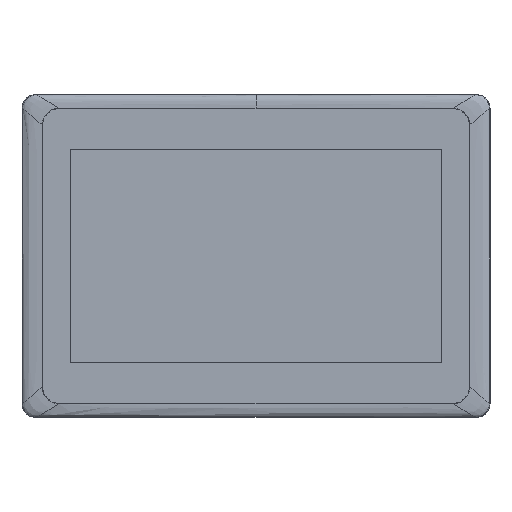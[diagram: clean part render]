
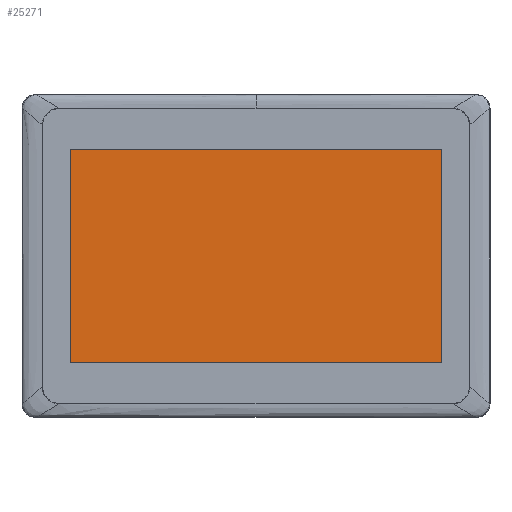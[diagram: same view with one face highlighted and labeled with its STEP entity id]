
A CAD part, top view. The second image highlights one B-rep face of the part: STEP entity #25271.
In plain terms, the highlighted planar face has unit normal (0, 0, 1).
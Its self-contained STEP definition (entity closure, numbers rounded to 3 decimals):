
#25092=DIRECTION('',(0.,-1.,0.));
#25093=VECTOR('',#25092,127.6);
#25094=CARTESIAN_POINT('',(-111.25,63.8,-0.3));
#25095=LINE('',#25094,#25093);
#25096=DIRECTION('',(-1.,0.,0.));
#25097=VECTOR('',#25096,222.5);
#25098=CARTESIAN_POINT('',(111.25,63.8,-0.3));
#25099=LINE('',#25098,#25097);
#25100=DIRECTION('',(0.,1.,0.));
#25101=VECTOR('',#25100,127.6);
#25102=CARTESIAN_POINT('',(111.25,-63.8,-0.3));
#25103=LINE('',#25102,#25101);
#25104=DIRECTION('',(1.,0.,0.));
#25105=VECTOR('',#25104,222.5);
#25106=CARTESIAN_POINT('',(-111.25,-63.8,-0.3));
#25107=LINE('',#25106,#25105);
#25119=CARTESIAN_POINT('',(-111.25,63.8,-0.3));
#25120=CARTESIAN_POINT('',(-111.25,-63.8,-0.3));
#25121=VERTEX_POINT('',#25119);
#25122=VERTEX_POINT('',#25120);
#25123=CARTESIAN_POINT('',(111.25,-63.8,-0.3));
#25124=VERTEX_POINT('',#25123);
#25125=CARTESIAN_POINT('',(111.25,63.8,-0.3));
#25126=VERTEX_POINT('',#25125);
#25260=CARTESIAN_POINT('',(0.,0.,-0.3));
#25261=DIRECTION('',(0.,0.,1.));
#25262=DIRECTION('',(1.,0.,0.));
#25263=AXIS2_PLACEMENT_3D('',#25260,#25261,#25262);
#25264=PLANE('',#25263);
#25265=ORIENTED_EDGE('',*,*,#25179,.F.);
#25266=ORIENTED_EDGE('',*,*,#25224,.F.);
#25267=ORIENTED_EDGE('',*,*,#25209,.F.);
#25268=ORIENTED_EDGE('',*,*,#25194,.F.);
#25269=EDGE_LOOP('',(#25265,#25266,#25267,#25268));
#25270=FACE_OUTER_BOUND('',#25269,.F.);
#25271=ADVANCED_FACE('',(#25270),#25264,.T.);
#25179=EDGE_CURVE('',#25121,#25122,#25095,.T.);
#25194=EDGE_CURVE('',#25122,#25124,#25107,.T.);
#25209=EDGE_CURVE('',#25124,#25126,#25103,.T.);
#25224=EDGE_CURVE('',#25126,#25121,#25099,.T.);
